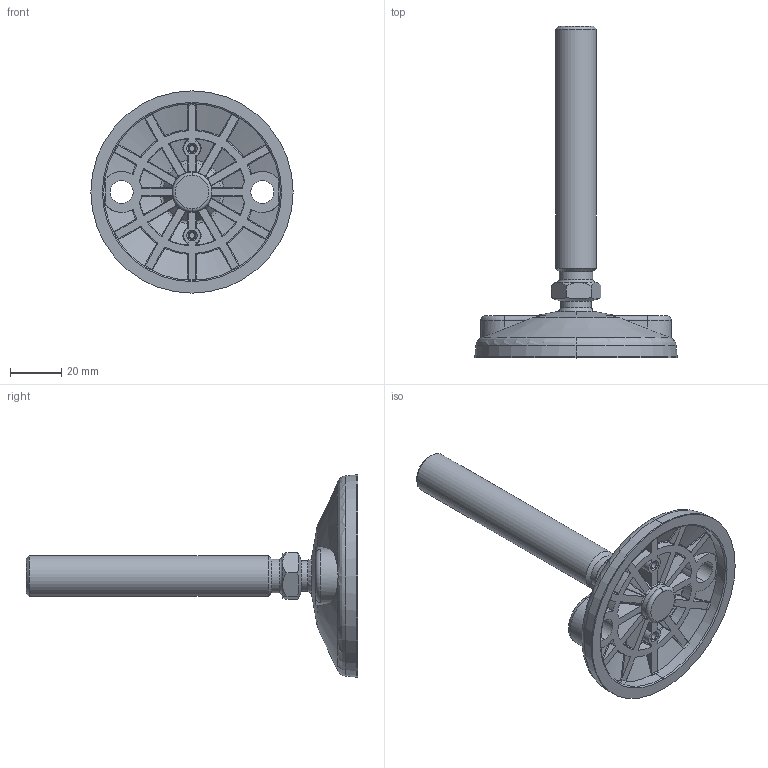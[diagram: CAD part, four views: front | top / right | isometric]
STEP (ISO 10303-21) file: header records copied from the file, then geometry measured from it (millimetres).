
FILE_DESCRIPTION(/* description */ (''),/* implementation_level */ '2;1');
FILE_NAME(/* name */ '\\carryline.intra\privat\users\mathias\Desktop\Tillfälliga filer\100-1120.stp',/* time_stamp */ '2018-11-19T10:14:15+01:00',/* author */ ('Mathias'),/* organization */ (''),/* preprocessor_version */ 'ST-DEVELOPER v17',/* originating_system */ 'Autodesk Inventor 2018',/* authorisation */ '');
FILE_SCHEMA (('AUTOMOTIVE_DESIGN { 1 0 10303 214 3 1 1 }'));
Length unit declared in the file: millimetre
Products named in the file (3): 100-1120; 098D080KB; 098DM16100M
Assembly tree (2 placements, depth 2):
  100-1120
    098D080KB
    098DM16100M
Bounding box: 79 x 129.6 x 79 mm (x, y, z)
Volume: 59574.5 mm3; surface area: 23620.5 mm2
Topology: 2 solids, 2 shells, 484 faces, 1236 edges, 752 vertices
Faces by surface type: cylinder 119, bspline 104, plane 87, torus 72, cone 59, sphere 43
Full cylindrical faces by diameter (mm): 12 x1, 13.2 x1, 16 x1
Entity records: 17756 total; most frequent: CARTESIAN_POINT 6906, ORIENTED_EDGE 2452, DIRECTION 2056, EDGE_CURVE 1226, AXIS2_PLACEMENT_3D 904, VERTEX_POINT 752, CIRCLE 518, EDGE_LOOP 494
